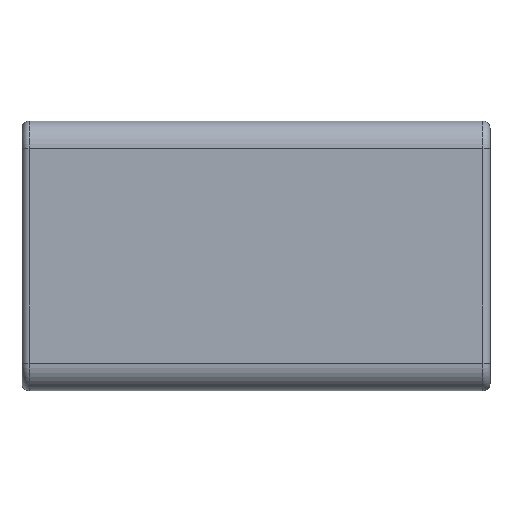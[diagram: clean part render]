
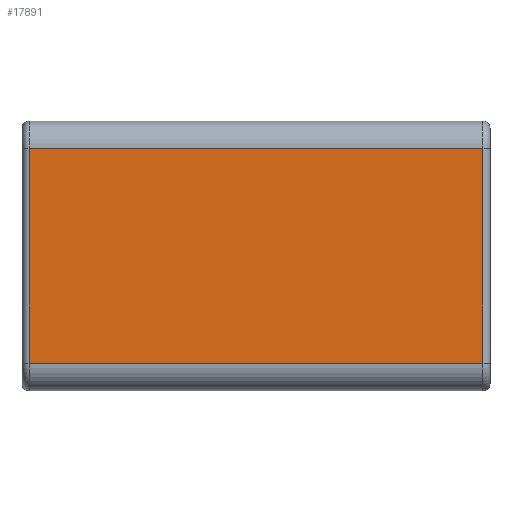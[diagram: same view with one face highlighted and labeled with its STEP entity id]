
A CAD part, top view. The second image highlights one B-rep face of the part: STEP entity #17891.
In plain terms, the highlighted planar face has unit normal (0, 0, 1).
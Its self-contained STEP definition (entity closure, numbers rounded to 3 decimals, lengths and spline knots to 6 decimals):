
#5657=ORIENTED_EDGE('',*,*,#8943,.T.);
#5658=ORIENTED_EDGE('',*,*,#8842,.T.);
#5659=ORIENTED_EDGE('',*,*,#8942,.T.);
#5660=ORIENTED_EDGE('',*,*,#8897,.T.);
#8842=EDGE_CURVE('',#10590,#10586,#12363,.T.);
#8897=EDGE_CURVE('',#10610,#10621,#12387,.T.);
#8942=EDGE_CURVE('',#10586,#10610,#12424,.T.);
#8943=EDGE_CURVE('',#10621,#10590,#12425,.T.);
#10586=VERTEX_POINT('',#43858);
#10590=VERTEX_POINT('',#43870);
#10610=VERTEX_POINT('',#43938);
#10621=VERTEX_POINT('',#43972);
#12363=LINE('',#43869,#14150);
#12387=LINE('',#43978,#14174);
#12424=LINE('',#44066,#14211);
#12425=LINE('',#44068,#14212);
#14150=VECTOR('',#22056,1.);
#14174=VECTOR('',#22184,1.);
#14211=VECTOR('',#22283,1.);
#14212=VECTOR('',#22286,1.);
#15196=EDGE_LOOP('',(#5657,#5658,#5659,#5660));
#16237=FACE_BOUND('',#15196,.T.);
#16847=PLANE('',#19101);
#17891=ADVANCED_FACE('',(#16237),#16847,.F.);
#19101=AXIS2_PLACEMENT_3D('',#44067,#22284,#22285);
#22056=DIRECTION('',(0.,1.,0.));
#22184=DIRECTION('',(0.,-1.,0.));
#22283=DIRECTION('',(-1.,0.,0.));
#22284=DIRECTION('',(0.,0.,-1.));
#22285=DIRECTION('',(0.,-1.,0.));
#22286=DIRECTION('',(1.,0.,0.));
#43858=CARTESIAN_POINT('',(-0.07095,-0.0131,0.00045));
#43869=CARTESIAN_POINT('',(-0.07095,-0.0106,0.00045));
#43870=CARTESIAN_POINT('',(-0.07095,-0.0342,0.00045));
#43938=CARTESIAN_POINT('',(-0.11555,-0.0131,0.00045));
#43972=CARTESIAN_POINT('',(-0.11555,-0.0342,0.00045));
#43978=CARTESIAN_POINT('',(-0.11555,-0.0106,0.00045));
#44066=CARTESIAN_POINT('',(-0.11605,-0.0131,0.00045));
#44067=CARTESIAN_POINT('',(-0.11605,-0.0106,0.00045));
#44068=CARTESIAN_POINT('',(-0.11605,-0.0342,0.00045));
